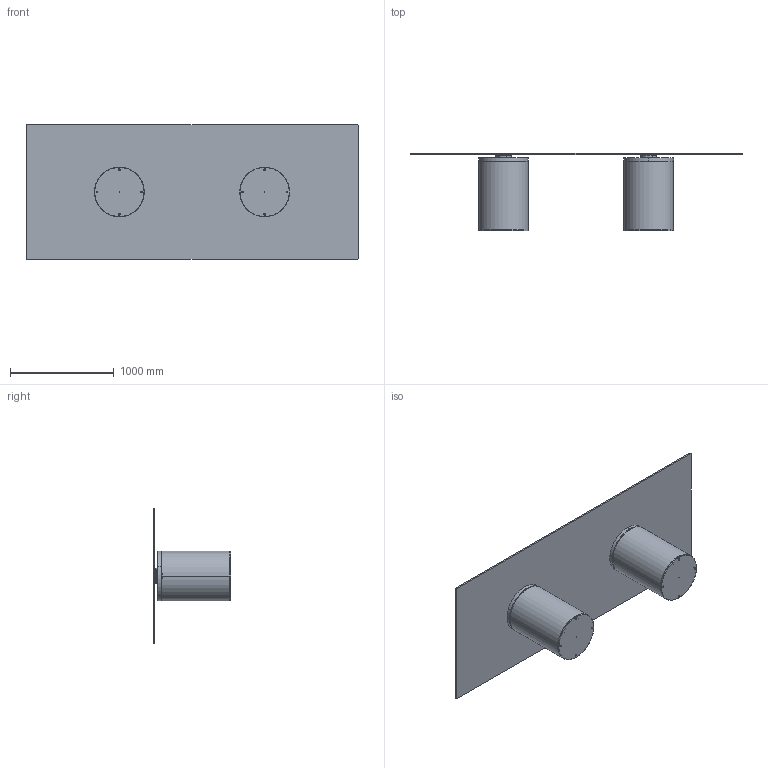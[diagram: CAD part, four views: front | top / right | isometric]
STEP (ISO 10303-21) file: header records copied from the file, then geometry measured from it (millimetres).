
FILE_DESCRIPTION (( 'STEP AP203' ), '1' );
FILE_NAME ('CI25G.STEP', '2024-08-08T06:51:12', ( '' ), ( '' ), 'SwSTEP 2.0', 'SolidWorks 2022', '' );
FILE_SCHEMA (( 'CONFIG_CONTROL_DESIGN' ));
Length unit declared in the file: millimetre
Products named in the file (12): C2XCRXX-00-Piani Rettangolari Cristallo TRASPARENTE_C25 3200x1300; C2XCRXX-00-Piani Rettangolari Cristallo Trasparente CON DISCHI_C25CR0CI PIANO CRISTALLO 320x130cm CILINDRO; CIB000000SPE-00-SPESSORE PER CILINDRO TRASPARENTE; PIASTRE DOPPIE D.150 PER TRASPARENTE MASCHIO_Ø150; M8xXXmm_hex_M8X20mm; CIB000000BAR-00-BARRA PER CILINDRO TRASPARENTE_Default<A macchina>; Grano M6_M6x14; CIB000000-00-CILINDRO BASE D.480mm_SENZA PIASTRA; CI25G; CIB000000_02-01-ZAVORRA IN FERRO D.480mm; CIB000000_01-00-struttura cilindro D.480mm; PIASTRE DOPPIE D.150 PER TRASPARENTE FEMMINA_Ø150
Assembly tree (24 placements, depth 3):
  CI25G
    C2XCRXX-00-Piani Rettangolari Cristallo Trasparente CON DISCHI_C25CR0CI PIANO CRISTALLO 320x130cm CILINDRO
      C2XCRXX-00-Piani Rettangolari Cristallo TRASPARENTE_C25 3200x1300
      PIASTRE DOPPIE D.150 PER TRASPARENTE MASCHIO_Ø150  x2
    CIB000000-00-CILINDRO BASE D.480mm_SENZA PIASTRA  x2
      CIB000000_01-00-struttura cilindro D.480mm
      CIB000000_02-01-ZAVORRA IN FERRO D.480mm
      M8xXXmm_hex_M8X20mm
    CIB000000SPE-00-SPESSORE PER CILINDRO TRASPARENTE  x2
    CIB000000BAR-00-BARRA PER CILINDRO TRASPARENTE_Default<A macchina>  x2
    PIASTRE DOPPIE D.150 PER TRASPARENTE FEMMINA_Ø150  x2
    Grano M6_M6x14  x6
Bounding box: 3200 x 747 x 1300 mm (x, y, z)
Volume: 85166804.7 mm3; surface area: 14980462.8 mm2
Topology: 37 solids, 37 shells, 956 faces, 2240 edges, 1350 vertices
Faces by surface type: cylinder 436, plane 334, cone 124, sphere 28, bspline 18, torus 16
Entity records: 13010 total; most frequent: CARTESIAN_POINT 4280, DIRECTION 1590, ORIENTED_EDGE 1400, EDGE_CURVE 700, AXIS2_PLACEMENT_3D 638, VERTEX_POINT 432, EDGE_LOOP 372, LINE 314
